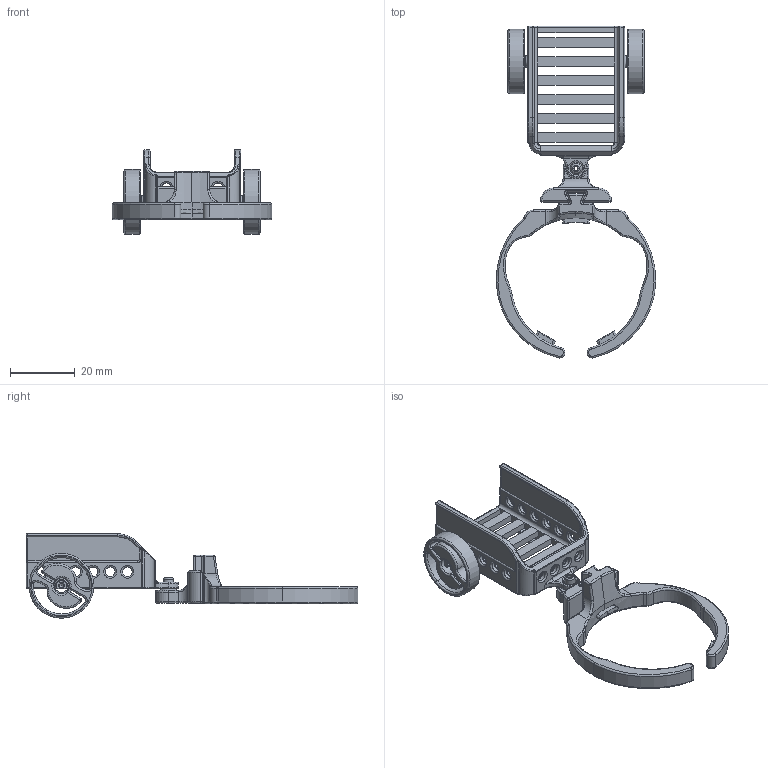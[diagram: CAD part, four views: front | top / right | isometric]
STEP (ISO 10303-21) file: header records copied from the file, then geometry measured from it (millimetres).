
FILE_DESCRIPTION(/* description */ (''),/* implementation_level */ '2;1');
FILE_NAME(/* name */ 'Ari Trailer.step',/* time_stamp */ '2025-08-27T15:57:05-07:00',/* author */ (''),/* organization */ (''),/* preprocessor_version */ 'ST-DEVELOPER v20.1',/* originating_system */ 'Autodesk Translation Framework v14.10.0.0',/* authorisation */ '');
FILE_SCHEMA (('AUTOMOTIVE_DESIGN { 1 0 10303 214 3 1 1 }'));
Length unit declared in the file: millimetre
Products named in the file (6): Evo Trailer_CAD Library; Hitch; Wheel A; Wheel B; Trailer; Ari Rear Clip
Assembly tree (5 placements, depth 2):
  Evo Trailer_CAD Library
    Hitch
    Wheel A
    Wheel B
    Trailer
    Ari Rear Clip
Bounding box: 49.19 x 102.46 x 26.1 mm (x, y, z)
Volume: 9883.4 mm3; surface area: 11726 mm2
Topology: 5 solids, 5 shells, 862 faces, 2056 edges, 1188 vertices
Faces by surface type: cylinder 289, bspline 210, torus 170, plane 115, sphere 66, cone 12
Full cylindrical faces by diameter (mm): 1.25 x1, 3 x17, 4 x1, 4.1 x2, 5 x2, 20 x2
Entity records: 35965 total; most frequent: CARTESIAN_POINT 16593, ORIENTED_EDGE 4080, DIRECTION 3992, EDGE_CURVE 2040, AXIS2_PLACEMENT_3D 1696, VERTEX_POINT 1188, CIRCLE 957, EDGE_LOOP 924
